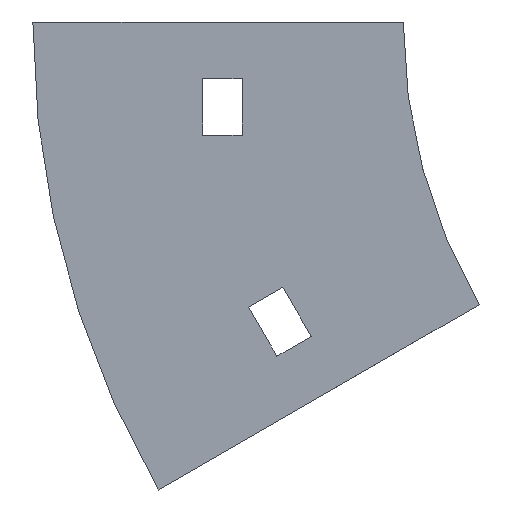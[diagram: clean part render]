
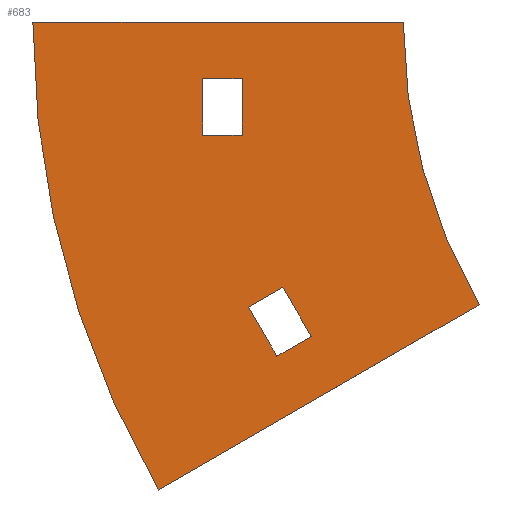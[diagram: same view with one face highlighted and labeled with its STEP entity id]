
A CAD part, left-side view. The second image highlights one B-rep face of the part: STEP entity #683.
In plain terms, the highlighted planar face has unit normal (-1, 0, 0).
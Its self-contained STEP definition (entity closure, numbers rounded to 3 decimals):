
#2 = CARTESIAN_POINT ( 'NONE',  ( -39.5, 16.284, -55.59 ) ) ;
#7 = EDGE_CURVE ( 'NONE', #387, #1081, #217, .T. ) ;
#15 = EDGE_CURVE ( 'NONE', #665, #163, #1014, .T. ) ;
#34 = VERTEX_POINT ( 'NONE', #579 ) ;
#36 = CIRCLE ( 'NONE', #803, 165.5 ) ;
#37 = VECTOR ( 'NONE', #336, 1000. ) ;
#39 = CIRCLE ( 'NONE', #766, 100. ) ;
#56 = LINE ( 'NONE', #857, #590 ) ;
#76 = CARTESIAN_POINT ( 'NONE',  ( -39.5, -100., 0. ) ) ;
#86 = EDGE_CURVE ( 'NONE', #1081, #658, #786, .T. ) ;
#105 = AXIS2_PLACEMENT_3D ( 'NONE', #1129, #584, #885 ) ;
#109 = DIRECTION ( 'NONE',  ( 0., 0., 1. ) ) ;
#128 = VECTOR ( 'NONE', #316, 1000. ) ;
#129 = DIRECTION ( 'NONE',  ( 0., -0.866, 0.5 ) ) ;
#150 = ORIENTED_EDGE ( 'NONE', *, *, #1135, .F. ) ;
#155 = CARTESIAN_POINT ( 'NONE',  ( -39.5, 35.5, -10. ) ) ;
#163 = VERTEX_POINT ( 'NONE', #653 ) ;
#164 = DIRECTION ( 'NONE',  ( 1., 0., 0. ) ) ;
#168 = EDGE_LOOP ( 'NONE', ( #150, #827, #989, #729 ) ) ;
#183 = CARTESIAN_POINT ( 'NONE',  ( -39.5, -13.397, -50. ) ) ;
#217 = LINE ( 'NONE', #155, #810 ) ;
#225 = DIRECTION ( 'NONE',  ( 0., -1., 0. ) ) ;
#226 = EDGE_CURVE ( 'NONE', #910, #387, #298, .T. ) ;
#255 = EDGE_CURVE ( 'NONE', #377, #809, #412, .T. ) ;
#258 = CARTESIAN_POINT ( 'NONE',  ( -39.5, 35.5, -20. ) ) ;
#298 = LINE ( 'NONE', #458, #324 ) ;
#306 = FACE_OUTER_BOUND ( 'NONE', #168, .T. ) ;
#307 = CARTESIAN_POINT ( 'NONE',  ( -39.5, 65.5, 0. ) ) ;
#316 = DIRECTION ( 'NONE',  ( 0., -0.5, -0.866 ) ) ;
#321 = ORIENTED_EDGE ( 'NONE', *, *, #226, .T. ) ;
#324 = VECTOR ( 'NONE', #568, 1000. ) ;
#336 = DIRECTION ( 'NONE',  ( 0., 0.5, 0.866 ) ) ;
#377 = VERTEX_POINT ( 'NONE', #739 ) ;
#386 = VECTOR ( 'NONE', #225, 1000. ) ;
#387 = VERTEX_POINT ( 'NONE', #1087 ) ;
#390 = CARTESIAN_POINT ( 'NONE',  ( -39.5, 65.5, 0. ) ) ;
#397 = ORIENTED_EDGE ( 'NONE', *, *, #86, .T. ) ;
#412 = LINE ( 'NONE', #958, #128 ) ;
#432 = DIRECTION ( 'NONE',  ( 0., 0., 1. ) ) ;
#458 = CARTESIAN_POINT ( 'NONE',  ( -39.5, 35.5, -10. ) ) ;
#461 = LINE ( 'NONE', #544, #1032 ) ;
#484 = PLANE ( 'NONE',  #105 ) ;
#509 = DIRECTION ( 'NONE',  ( -1., 0., 0. ) ) ;
#523 = CARTESIAN_POINT ( 'NONE',  ( -39.5, 28.5, -10. ) ) ;
#544 = CARTESIAN_POINT ( 'NONE',  ( -39.5, -13.397, -50. ) ) ;
#547 = EDGE_CURVE ( 'NONE', #616, #1144, #461, .T. ) ;
#568 = DIRECTION ( 'NONE',  ( 0., 0., 1. ) ) ;
#579 = CARTESIAN_POINT ( 'NONE',  ( -39.5, 21.284, -46.929 ) ) ;
#584 = DIRECTION ( 'NONE',  ( -1., 0., 0. ) ) ;
#590 = VECTOR ( 'NONE', #129, 1000. ) ;
#596 = EDGE_CURVE ( 'NONE', #34, #377, #703, .T. ) ;
#600 = EDGE_CURVE ( 'NONE', #1144, #665, #36, .T. ) ;
#602 = ORIENTED_EDGE ( 'NONE', *, *, #596, .F. ) ;
#612 = DIRECTION ( 'NONE',  ( 0., 0.866, -0.5 ) ) ;
#616 = VERTEX_POINT ( 'NONE', #183 ) ;
#629 = LINE ( 'NONE', #876, #37 ) ;
#653 = CARTESIAN_POINT ( 'NONE',  ( -39.5, 0., 0. ) ) ;
#658 = VERTEX_POINT ( 'NONE', #1105 ) ;
#665 = VERTEX_POINT ( 'NONE', #390 ) ;
#666 = VECTOR ( 'NONE', #902, 1000. ) ;
#667 = VECTOR ( 'NONE', #612, 1000. ) ;
#671 = EDGE_LOOP ( 'NONE', ( #880, #397, #741, #321 ) ) ;
#676 = FACE_BOUND ( 'NONE', #1073, .T. ) ;
#683 = ADVANCED_FACE ( 'NONE', ( #1111, #306, #676 ), #484, .T. ) ;
#693 = DIRECTION ( 'NONE',  ( 0., 0., -1. ) ) ;
#695 = VECTOR ( 'NONE', #693, 1000. ) ;
#703 = LINE ( 'NONE', #898, #667 ) ;
#729 = ORIENTED_EDGE ( 'NONE', *, *, #547, .F. ) ;
#739 = CARTESIAN_POINT ( 'NONE',  ( -39.5, 27.346, -50.429 ) ) ;
#741 = ORIENTED_EDGE ( 'NONE', *, *, #844, .T. ) ;
#766 = AXIS2_PLACEMENT_3D ( 'NONE', #960, #509, #109 ) ;
#770 = CARTESIAN_POINT ( 'NONE',  ( -39.5, 28.5, -10. ) ) ;
#786 = LINE ( 'NONE', #770, #695 ) ;
#799 = LINE ( 'NONE', #258, #666 ) ;
#803 = AXIS2_PLACEMENT_3D ( 'NONE', #76, #164, #432 ) ;
#809 = VERTEX_POINT ( 'NONE', #1056 ) ;
#810 = VECTOR ( 'NONE', #1137, 1000. ) ;
#827 = ORIENTED_EDGE ( 'NONE', *, *, #15, .F. ) ;
#844 = EDGE_CURVE ( 'NONE', #658, #910, #799, .T. ) ;
#857 = CARTESIAN_POINT ( 'NONE',  ( -39.5, 22.346, -59.09 ) ) ;
#876 = CARTESIAN_POINT ( 'NONE',  ( -39.5, 16.284, -55.59 ) ) ;
#880 = ORIENTED_EDGE ( 'NONE', *, *, #7, .T. ) ;
#885 = DIRECTION ( 'NONE',  ( 0., 0., 1. ) ) ;
#893 = VERTEX_POINT ( 'NONE', #2 ) ;
#898 = CARTESIAN_POINT ( 'NONE',  ( -39.5, 27.346, -50.429 ) ) ;
#902 = DIRECTION ( 'NONE',  ( 0., 1., 0. ) ) ;
#910 = VERTEX_POINT ( 'NONE', #972 ) ;
#918 = ORIENTED_EDGE ( 'NONE', *, *, #996, .F. ) ;
#958 = CARTESIAN_POINT ( 'NONE',  ( -39.5, 22.346, -59.09 ) ) ;
#960 = CARTESIAN_POINT ( 'NONE',  ( -39.5, -100., 0. ) ) ;
#972 = CARTESIAN_POINT ( 'NONE',  ( -39.5, 35.5, -20. ) ) ;
#989 = ORIENTED_EDGE ( 'NONE', *, *, #600, .F. ) ;
#996 = EDGE_CURVE ( 'NONE', #809, #893, #56, .T. ) ;
#997 = CARTESIAN_POINT ( 'NONE',  ( -39.5, 43.327, -82.75 ) ) ;
#1014 = LINE ( 'NONE', #307, #386 ) ;
#1029 = EDGE_CURVE ( 'NONE', #893, #34, #629, .T. ) ;
#1032 = VECTOR ( 'NONE', #1047, 1000. ) ;
#1047 = DIRECTION ( 'NONE',  ( 0., 0.866, -0.5 ) ) ;
#1056 = CARTESIAN_POINT ( 'NONE',  ( -39.5, 22.346, -59.09 ) ) ;
#1073 = EDGE_LOOP ( 'NONE', ( #1110, #918, #1149, #602 ) ) ;
#1081 = VERTEX_POINT ( 'NONE', #523 ) ;
#1087 = CARTESIAN_POINT ( 'NONE',  ( -39.5, 35.5, -10. ) ) ;
#1105 = CARTESIAN_POINT ( 'NONE',  ( -39.5, 28.5, -20. ) ) ;
#1110 = ORIENTED_EDGE ( 'NONE', *, *, #1029, .F. ) ;
#1111 = FACE_BOUND ( 'NONE', #671, .T. ) ;
#1129 = CARTESIAN_POINT ( 'NONE',  ( -39.5, -100., 0. ) ) ;
#1135 = EDGE_CURVE ( 'NONE', #163, #616, #39, .T. ) ;
#1137 = DIRECTION ( 'NONE',  ( 0., -1., 0. ) ) ;
#1144 = VERTEX_POINT ( 'NONE', #997 ) ;
#1149 = ORIENTED_EDGE ( 'NONE', *, *, #255, .F. ) ;
